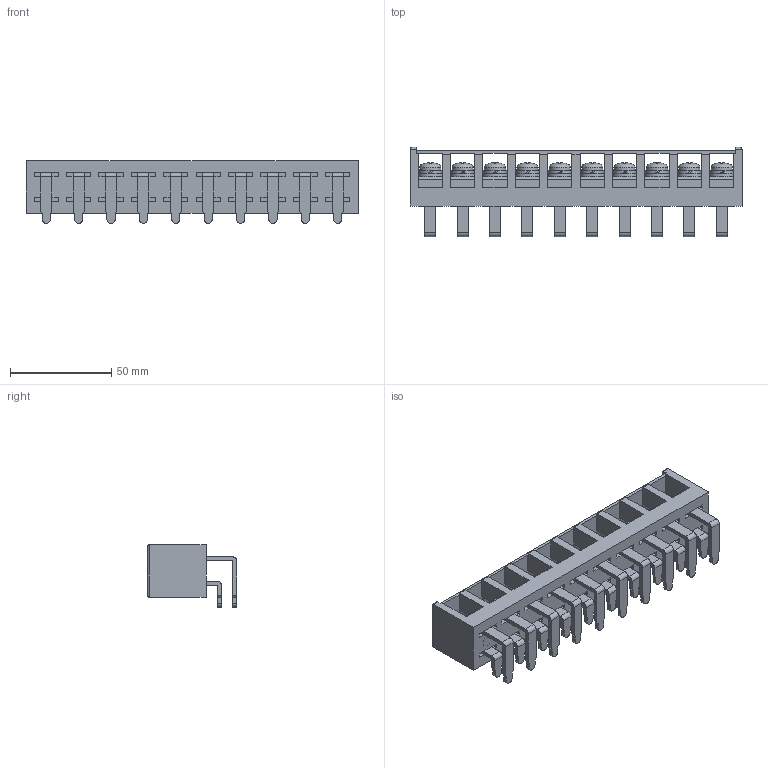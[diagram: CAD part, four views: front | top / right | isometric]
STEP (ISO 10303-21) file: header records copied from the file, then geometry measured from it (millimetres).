
FILE_DESCRIPTION(/* description */ ('Alibre Inc.'),/* implementation_level */ '2;1');
FILE_NAME(/* name */ 'export-40F439A2-9E8F-4C6D-9DDD-52641B6ED99F',/* time_stamp */ '2025-01-30T14:31:08+09:00',/* author */ (''),/* organization */ (''),/* preprocessor_version */ 'ST-DEVELOPER v17',/* originating_system */ 'Alibre',/* authorisation */ '');
FILE_SCHEMA (('CONFIG_CONTROL_DESIGN'));
Length unit declared in the file: millimetre
Bounding box: 164 x 44.1 x 31 mm (x, y, z)
Volume: 82975.2 mm3; surface area: 48210.6 mm2
Topology: 1 solids, 2 shells, 1270 faces, 3606 edges, 2351 vertices
Faces by surface type: plane 895, cylinder 164, bspline 150, cone 41, torus 10, sphere 10
Full cylindrical faces by diameter (mm): 6 x1, 10.5 x10, 12.5 x9
Entity records: 38152 total; most frequent: CARTESIAN_POINT 8340, ORIENTED_EDGE 7112, DIRECTION 4597, EDGE_CURVE 3556, VERTEX_POINT 2332, VECTOR 2301, LINE 2301, AXIS2_PLACEMENT_3D 1507
